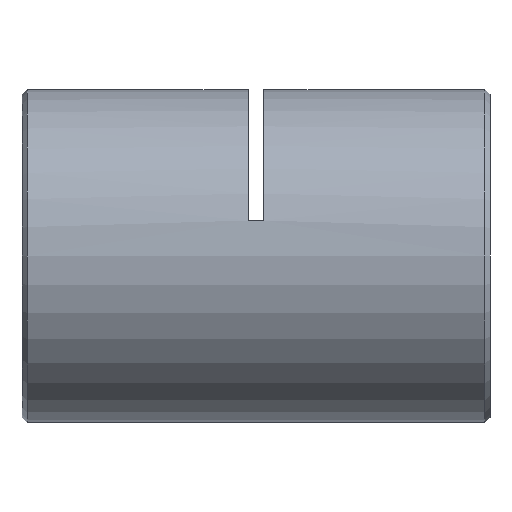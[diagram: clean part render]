
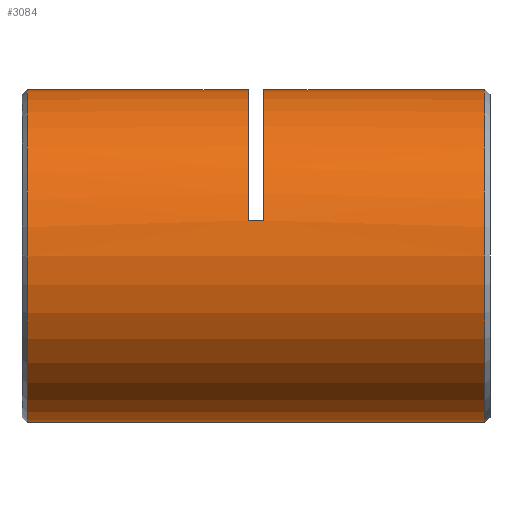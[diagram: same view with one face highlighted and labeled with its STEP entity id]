
A CAD part, left-side view. The second image highlights one B-rep face of the part: STEP entity #3084.
In plain terms, the highlighted cylindrical face has radius 16 mm (diameter 32 mm), a partial arc.
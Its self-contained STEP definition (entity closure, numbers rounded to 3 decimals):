
#46 = DIRECTION ( 'NONE',  ( 0., 1., 0. ) ) ;
#143 = CARTESIAN_POINT ( 'NONE',  ( -15.632, 22.75, 3.413 ) ) ;
#303 = AXIS2_PLACEMENT_3D ( 'NONE', #4073, #5250, #836 ) ;
#331 = CIRCLE ( 'NONE', #4965, 16. ) ;
#376 = CYLINDRICAL_SURFACE ( 'NONE', #2063, 16. ) ;
#692 = CARTESIAN_POINT ( 'NONE',  ( 0., 23.5, 16. ) ) ;
#698 = CARTESIAN_POINT ( 'NONE',  ( -15.632, 22., 3.413 ) ) ;
#773 = EDGE_CURVE ( 'NONE', #1848, #1537, #3057, .T. ) ;
#836 = DIRECTION ( 'NONE',  ( 0., 0., 1. ) ) ;
#880 = EDGE_CURVE ( 'NONE', #1728, #4499, #1480, .T. ) ;
#1129 = VECTOR ( 'NONE', #4498, 1000. ) ;
#1253 = DIRECTION ( 'NONE',  ( 0., -1., 0. ) ) ;
#1314 = EDGE_CURVE ( 'NONE', #4499, #1537, #4592, .T. ) ;
#1480 = CIRCLE ( 'NONE', #5408, 16. ) ;
#1537 = VERTEX_POINT ( 'NONE', #2169 ) ;
#1601 = ORIENTED_EDGE ( 'NONE', *, *, #773, .F. ) ;
#1625 = CARTESIAN_POINT ( 'NONE',  ( 0., 0., 16. ) ) ;
#1641 = CARTESIAN_POINT ( 'NONE',  ( 0., 0.75, 0. ) ) ;
#1728 = VERTEX_POINT ( 'NONE', #6050 ) ;
#1748 = CARTESIAN_POINT ( 'NONE',  ( 0., 23.5, 0. ) ) ;
#1848 = VERTEX_POINT ( 'NONE', #698 ) ;
#1941 = CARTESIAN_POINT ( 'NONE',  ( 0., 0., 16. ) ) ;
#1995 = CARTESIAN_POINT ( 'NONE',  ( 0., 0., -16. ) ) ;
#2021 = VERTEX_POINT ( 'NONE', #692 ) ;
#2039 = ORIENTED_EDGE ( 'NONE', *, *, #3893, .F. ) ;
#2063 = AXIS2_PLACEMENT_3D ( 'NONE', #3286, #2855, #3415 ) ;
#2169 = CARTESIAN_POINT ( 'NONE',  ( 0., 22., 16. ) ) ;
#2476 = CARTESIAN_POINT ( 'NONE',  ( 0., 44.75, -16. ) ) ;
#2494 = LINE ( 'NONE', #1941, #5512 ) ;
#2599 = DIRECTION ( 'NONE',  ( 0., 0., 1. ) ) ;
#2779 = VECTOR ( 'NONE', #6300, 1000. ) ;
#2855 = DIRECTION ( 'NONE',  ( 0., 1., 0. ) ) ;
#3057 = CIRCLE ( 'NONE', #303, 16. ) ;
#3084 = ADVANCED_FACE ( 'NONE', ( #5883 ), #376, .T. ) ;
#3156 = DIRECTION ( 'NONE',  ( 0., 0., 1. ) ) ;
#3220 = LINE ( 'NONE', #143, #6299 ) ;
#3286 = CARTESIAN_POINT ( 'NONE',  ( 0., 0., 0. ) ) ;
#3405 = CIRCLE ( 'NONE', #3817, 16. ) ;
#3415 = DIRECTION ( 'NONE',  ( 0., 0., 1. ) ) ;
#3425 = ORIENTED_EDGE ( 'NONE', *, *, #3644, .T. ) ;
#3556 = EDGE_CURVE ( 'NONE', #1848, #4783, #3220, .T. ) ;
#3644 = EDGE_CURVE ( 'NONE', #4783, #2021, #331, .T. ) ;
#3817 = AXIS2_PLACEMENT_3D ( 'NONE', #5672, #1253, #4691 ) ;
#3863 = LINE ( 'NONE', #1995, #2779 ) ;
#3887 = VERTEX_POINT ( 'NONE', #2476 ) ;
#3893 = EDGE_CURVE ( 'NONE', #1728, #3887, #3863, .T. ) ;
#4073 = CARTESIAN_POINT ( 'NONE',  ( 0., 22., 0. ) ) ;
#4090 = DIRECTION ( 'NONE',  ( 0., 1., 0. ) ) ;
#4366 = ORIENTED_EDGE ( 'NONE', *, *, #1314, .T. ) ;
#4498 = DIRECTION ( 'NONE',  ( 0., 1., 0. ) ) ;
#4499 = VERTEX_POINT ( 'NONE', #4519 ) ;
#4519 = CARTESIAN_POINT ( 'NONE',  ( 0., 0.75, 16. ) ) ;
#4592 = LINE ( 'NONE', #1625, #1129 ) ;
#4618 = ORIENTED_EDGE ( 'NONE', *, *, #6238, .T. ) ;
#4691 = DIRECTION ( 'NONE',  ( 0., 0., -1. ) ) ;
#4783 = VERTEX_POINT ( 'NONE', #5757 ) ;
#4818 = VERTEX_POINT ( 'NONE', #4932 ) ;
#4932 = CARTESIAN_POINT ( 'NONE',  ( 0., 44.75, 16. ) ) ;
#4965 = AXIS2_PLACEMENT_3D ( 'NONE', #1748, #6084, #3156 ) ;
#5130 = ORIENTED_EDGE ( 'NONE', *, *, #3556, .T. ) ;
#5250 = DIRECTION ( 'NONE',  ( 0., 1., 0. ) ) ;
#5408 = AXIS2_PLACEMENT_3D ( 'NONE', #1641, #5570, #2599 ) ;
#5454 = EDGE_CURVE ( 'NONE', #4818, #3887, #3405, .T. ) ;
#5483 = ORIENTED_EDGE ( 'NONE', *, *, #5454, .T. ) ;
#5512 = VECTOR ( 'NONE', #46, 1000. ) ;
#5570 = DIRECTION ( 'NONE',  ( 0., 1., 0. ) ) ;
#5672 = CARTESIAN_POINT ( 'NONE',  ( 0., 44.75, 0. ) ) ;
#5757 = CARTESIAN_POINT ( 'NONE',  ( -15.632, 23.5, 3.413 ) ) ;
#5883 = FACE_OUTER_BOUND ( 'NONE', #6381, .T. ) ;
#6050 = CARTESIAN_POINT ( 'NONE',  ( 0., 0.75, -16. ) ) ;
#6068 = ORIENTED_EDGE ( 'NONE', *, *, #880, .T. ) ;
#6084 = DIRECTION ( 'NONE',  ( 0., 1., 0. ) ) ;
#6238 = EDGE_CURVE ( 'NONE', #2021, #4818, #2494, .T. ) ;
#6299 = VECTOR ( 'NONE', #4090, 1000. ) ;
#6300 = DIRECTION ( 'NONE',  ( 0., 1., 0. ) ) ;
#6381 = EDGE_LOOP ( 'NONE', ( #2039, #6068, #4366, #1601, #5130, #3425, #4618, #5483 ) ) ;
